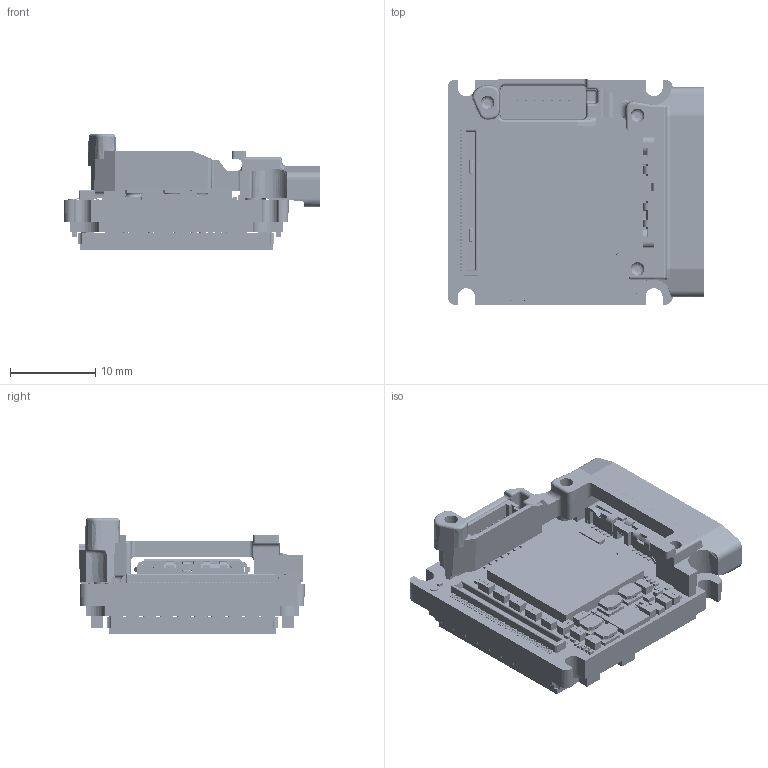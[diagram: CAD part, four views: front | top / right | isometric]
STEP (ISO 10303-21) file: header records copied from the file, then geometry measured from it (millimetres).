
FILE_DESCRIPTION (( 'STEP AP214' ), '1' );
FILE_NAME ('Alvium-USB90-Bare-Board-IMX23x20.STEP', '2022-12-21T14:17:18', ( '' ), ( '' ), 'SwSTEP 2.0', 'SolidWorks 2021', '' );
FILE_SCHEMA (( 'AUTOMOTIVE_DESIGN' ));
Length unit declared in the file: millimetre
Products named in the file (1): Alvium-USB90-Bare-Board-IMX23x20
Bounding box: 30.1 x 26.45 x 13.54 mm (x, y, z)
Volume: 4399.5 mm3; surface area: 6773.9 mm2
Topology: 147 solids, 147 shells, 10358 faces, 26368 edges, 17265 vertices
Faces by surface type: plane 5229, bspline 3826, cylinder 1225, cone 38, torus 32, sphere 8
Entity records: 644289 total; most frequent: CARTESIAN_POINT 303614, ORIENTED_EDGE 52722, DIRECTION 33975, EDGE_CURVE 26361, VERTEX_POINT 17265, VECTOR 16005, LINE 16005, EDGE_LOOP 11370
